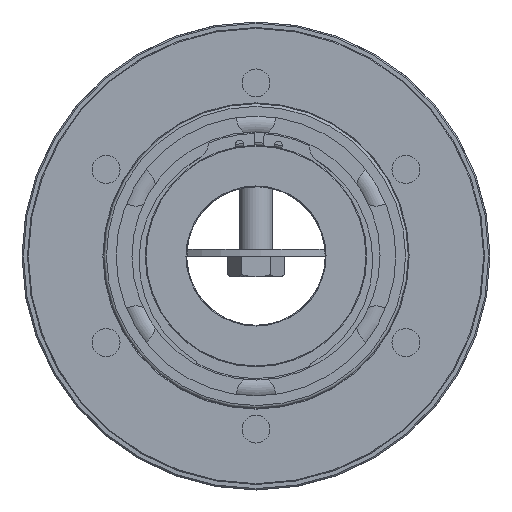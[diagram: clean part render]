
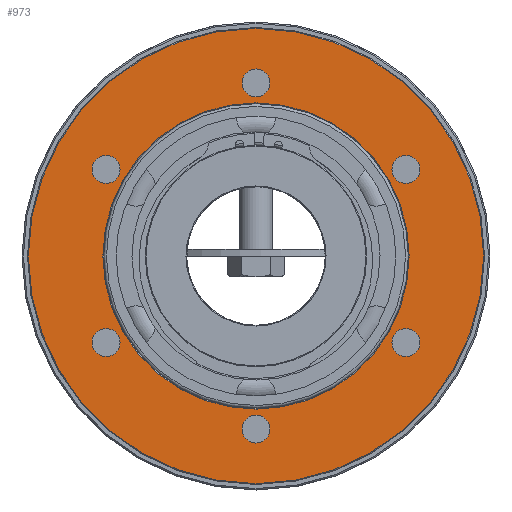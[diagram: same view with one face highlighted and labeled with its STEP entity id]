
A CAD part, left-side view. The second image highlights one B-rep face of the part: STEP entity #973.
In plain terms, the highlighted planar face has unit normal (-1, 0, 0).
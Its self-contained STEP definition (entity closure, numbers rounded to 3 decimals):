
#973 = ADVANCED_FACE( '', ( #1676, #1677, #1678, #1679, #1680, #1681, #1682, #1683 ), #1684, .F. );
#1676 = FACE_OUTER_BOUND( '', #2190, .T. );
#1677 = FACE_BOUND( '', #2191, .T. );
#1678 = FACE_BOUND( '', #2192, .T. );
#1679 = FACE_BOUND( '', #2193, .T. );
#1680 = FACE_BOUND( '', #2194, .T. );
#1681 = FACE_BOUND( '', #2195, .T. );
#1682 = FACE_BOUND( '', #2196, .T. );
#1683 = FACE_BOUND( '', #2197, .T. );
#1684 = PLANE( '', #2198 );
#2190 = EDGE_LOOP( '', ( #3060 ) );
#2191 = EDGE_LOOP( '', ( #3061 ) );
#2192 = EDGE_LOOP( '', ( #3062 ) );
#2193 = EDGE_LOOP( '', ( #3063 ) );
#2194 = EDGE_LOOP( '', ( #3064 ) );
#2195 = EDGE_LOOP( '', ( #3065 ) );
#2196 = EDGE_LOOP( '', ( #3066 ) );
#2197 = EDGE_LOOP( '', ( #3067 ) );
#2198 = AXIS2_PLACEMENT_3D( '', #3068, #3069, #3070 );
#3060 = ORIENTED_EDGE( '', *, *, #3675, .T. );
#3061 = ORIENTED_EDGE( '', *, *, #3676, .T. );
#3062 = ORIENTED_EDGE( '', *, *, #3677, .T. );
#3063 = ORIENTED_EDGE( '', *, *, #3678, .T. );
#3064 = ORIENTED_EDGE( '', *, *, #3679, .T. );
#3065 = ORIENTED_EDGE( '', *, *, #3680, .T. );
#3066 = ORIENTED_EDGE( '', *, *, #3681, .T. );
#3067 = ORIENTED_EDGE( '', *, *, #3682, .T. );
#3068 = CARTESIAN_POINT( '', ( -33.15, 82.5, 0. ) );
#3069 = DIRECTION( '', ( 1., 0., 0. ) );
#3070 = DIRECTION( '', ( 0., 1., 0. ) );
#3675 = EDGE_CURVE( '', #4154, #4154, #4155, .T. );
#3676 = EDGE_CURVE( '', #4156, #4156, #4157, .T. );
#3677 = EDGE_CURVE( '', #4158, #4158, #4159, .T. );
#3678 = EDGE_CURVE( '', #4160, #4160, #4161, .T. );
#3679 = EDGE_CURVE( '', #4162, #4162, #4163, .T. );
#3680 = EDGE_CURVE( '', #4164, #4164, #4165, .T. );
#3681 = EDGE_CURVE( '', #4166, #4166, #4167, .T. );
#3682 = EDGE_CURVE( '', #4168, #4168, #4169, .T. );
#4154 = VERTEX_POINT( '', #4932 );
#4155 = CIRCLE( '', #4933, 82.2 );
#4156 = VERTEX_POINT( '', #4934 );
#4157 = CIRCLE( '', #4935, 55.3 );
#4158 = VERTEX_POINT( '', #4936 );
#4159 = CIRCLE( '', #4937, 5.053 );
#4160 = VERTEX_POINT( '', #4938 );
#4161 = CIRCLE( '', #4939, 5.053 );
#4162 = VERTEX_POINT( '', #4940 );
#4163 = CIRCLE( '', #4941, 5.053 );
#4164 = VERTEX_POINT( '', #4942 );
#4165 = CIRCLE( '', #4943, 5.053 );
#4166 = VERTEX_POINT( '', #4944 );
#4167 = CIRCLE( '', #4945, 5.053 );
#4168 = VERTEX_POINT( '', #4946 );
#4169 = CIRCLE( '', #4947, 5.053 );
#4932 = CARTESIAN_POINT( '', ( -33.15, 0., -82.2 ) );
#4933 = AXIS2_PLACEMENT_3D( '', #5296, #5297, #5298 );
#4934 = CARTESIAN_POINT( '', ( -33.15, 0., -55.3 ) );
#4935 = AXIS2_PLACEMENT_3D( '', #5299, #5300, #5301 );
#4936 = CARTESIAN_POINT( '', ( -33.15, 58.503, 33.777 ) );
#4937 = AXIS2_PLACEMENT_3D( '', #5302, #5303, #5304 );
#4938 = CARTESIAN_POINT( '', ( -33.15, 58.503, -33.777 ) );
#4939 = AXIS2_PLACEMENT_3D( '', #5305, #5306, #5307 );
#4940 = CARTESIAN_POINT( '', ( -33.15, 0., -67.553 ) );
#4941 = AXIS2_PLACEMENT_3D( '', #5308, #5309, #5310 );
#4942 = CARTESIAN_POINT( '', ( -33.15, -58.503, -33.777 ) );
#4943 = AXIS2_PLACEMENT_3D( '', #5311, #5312, #5313 );
#4944 = CARTESIAN_POINT( '', ( -33.15, -58.503, 33.777 ) );
#4945 = AXIS2_PLACEMENT_3D( '', #5314, #5315, #5316 );
#4946 = CARTESIAN_POINT( '', ( -33.15, 0., 67.553 ) );
#4947 = AXIS2_PLACEMENT_3D( '', #5317, #5318, #5319 );
#5296 = CARTESIAN_POINT( '', ( -33.15, 0., 0. ) );
#5297 = DIRECTION( '', ( -1., 0., 0. ) );
#5298 = DIRECTION( '', ( 0., 0., -1. ) );
#5299 = CARTESIAN_POINT( '', ( -33.15, 0., 0. ) );
#5300 = DIRECTION( '', ( 1., 0., 0. ) );
#5301 = DIRECTION( '', ( 0., 0., -1. ) );
#5302 = CARTESIAN_POINT( '', ( -33.15, 54.127, 31.25 ) );
#5303 = DIRECTION( '', ( 1., 0., 0. ) );
#5304 = DIRECTION( '', ( 0., 0.866, 0.5 ) );
#5305 = CARTESIAN_POINT( '', ( -33.15, 54.127, -31.25 ) );
#5306 = DIRECTION( '', ( 1., 0., 0. ) );
#5307 = DIRECTION( '', ( 0., 0.866, -0.5 ) );
#5308 = CARTESIAN_POINT( '', ( -33.15, 0., -62.5 ) );
#5309 = DIRECTION( '', ( 1., 0., 0. ) );
#5310 = DIRECTION( '', ( 0., 0., -1. ) );
#5311 = CARTESIAN_POINT( '', ( -33.15, -54.127, -31.25 ) );
#5312 = DIRECTION( '', ( 1., 0., 0. ) );
#5313 = DIRECTION( '', ( 0., -0.866, -0.5 ) );
#5314 = CARTESIAN_POINT( '', ( -33.15, -54.127, 31.25 ) );
#5315 = DIRECTION( '', ( 1., 0., 0. ) );
#5316 = DIRECTION( '', ( 0., -0.866, 0.5 ) );
#5317 = CARTESIAN_POINT( '', ( -33.15, 0., 62.5 ) );
#5318 = DIRECTION( '', ( 1., 0., 0. ) );
#5319 = DIRECTION( '', ( 0., 0., 1. ) );
